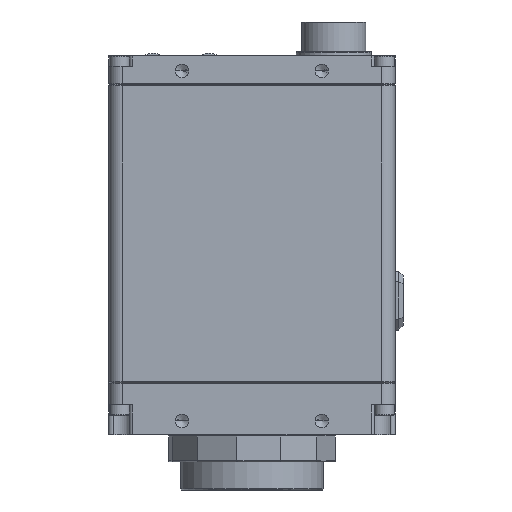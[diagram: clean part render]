
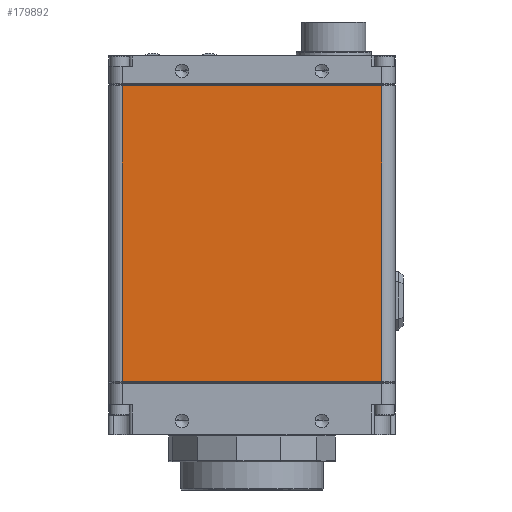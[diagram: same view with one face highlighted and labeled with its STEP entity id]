
A CAD part, front view. The second image highlights one B-rep face of the part: STEP entity #179892.
In plain terms, the highlighted planar face has unit normal (0, -1, 0) as drawn and (0, 1, 0) by its records, which use the part's own axes.
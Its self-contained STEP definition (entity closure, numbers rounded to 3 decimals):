
#12365 = VECTOR ( 'NONE', #133204, 1000. ) ;
#14049 = VECTOR ( 'NONE', #86388, 1000. ) ;
#16777 = ORIENTED_EDGE ( 'NONE', *, *, #97226, .F. ) ;
#21247 = AXIS2_PLACEMENT_3D ( 'NONE', #50912, #50476, #50230 ) ;
#33148 = CARTESIAN_POINT ( 'NONE',  ( 24.13, 16.51, 5.944 ) ) ;
#33170 = CARTESIAN_POINT ( 'NONE',  ( 24.13, 16.51, 60.96 ) ) ;
#33908 = LINE ( 'NONE', #83382, #134303 ) ;
#49980 = LINE ( 'NONE', #130969, #135012 ) ;
#50230 = DIRECTION ( 'NONE',  ( 1., 0., 0. ) ) ;
#50476 = DIRECTION ( 'NONE',  ( 0., -1., 0. ) ) ;
#50912 = CARTESIAN_POINT ( 'NONE',  ( -26.67, 16.51, 61.214 ) ) ;
#53761 = PLANE ( 'NONE',  #21247 ) ;
#54930 = CARTESIAN_POINT ( 'NONE',  ( -24.13, 16.51, 5.944 ) ) ;
#57644 = VERTEX_POINT ( 'NONE', #94011 ) ;
#57714 = EDGE_CURVE ( 'NONE', #128382, #57644, #33908, .T. ) ;
#63937 = ORIENTED_EDGE ( 'NONE', *, *, #82784, .F. ) ;
#74984 = ORIENTED_EDGE ( 'NONE', *, *, #57714, .F. ) ;
#82784 = EDGE_CURVE ( 'NONE', #190269, #143642, #182782, .T. ) ;
#83382 = CARTESIAN_POINT ( 'NONE',  ( -26.67, 16.51, 60.96 ) ) ;
#83590 = DIRECTION ( 'NONE',  ( -1., 0., 0. ) ) ;
#86388 = DIRECTION ( 'NONE',  ( 1., 0., 0. ) ) ;
#87537 = CARTESIAN_POINT ( 'NONE',  ( -26.67, 16.51, 5.944 ) ) ;
#94011 = CARTESIAN_POINT ( 'NONE',  ( -24.13, 16.51, 60.96 ) ) ;
#97226 = EDGE_CURVE ( 'NONE', #143642, #128382, #49980, .T. ) ;
#125144 = ORIENTED_EDGE ( 'NONE', *, *, #134185, .F. ) ;
#128382 = VERTEX_POINT ( 'NONE', #33170 ) ;
#130529 = DIRECTION ( 'NONE',  ( 0., 0., 1. ) ) ;
#130969 = CARTESIAN_POINT ( 'NONE',  ( 24.13, 16.51, 61.214 ) ) ;
#133204 = DIRECTION ( 'NONE',  ( 0., 0., -1. ) ) ;
#134185 = EDGE_CURVE ( 'NONE', #57644, #190269, #135476, .T. ) ;
#134303 = VECTOR ( 'NONE', #83590, 1000. ) ;
#135012 = VECTOR ( 'NONE', #130529, 1000. ) ;
#135476 = LINE ( 'NONE', #140003, #12365 ) ;
#140003 = CARTESIAN_POINT ( 'NONE',  ( -24.13, 16.51, 61.214 ) ) ;
#142122 = EDGE_LOOP ( 'NONE', ( #63937, #125144, #74984, #16777 ) ) ;
#143642 = VERTEX_POINT ( 'NONE', #33148 ) ;
#170796 = FACE_OUTER_BOUND ( 'NONE', #142122, .T. ) ;
#179892 = ADVANCED_FACE ( 'NONE', ( #170796 ), #53761, .F. ) ;
#182782 = LINE ( 'NONE', #87537, #14049 ) ;
#190269 = VERTEX_POINT ( 'NONE', #54930 ) ;
